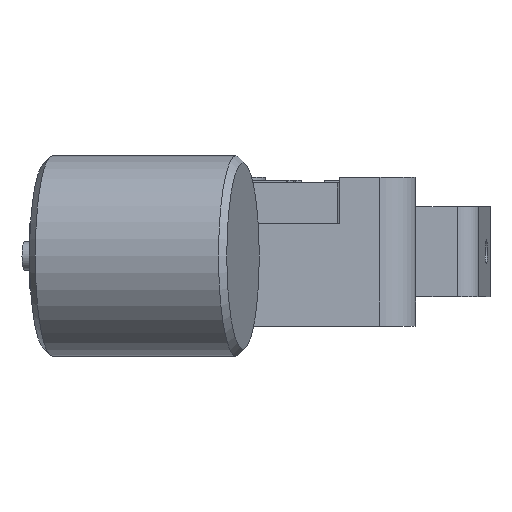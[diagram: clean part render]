
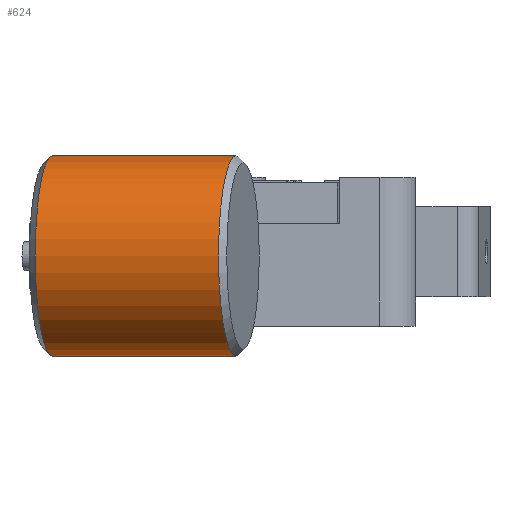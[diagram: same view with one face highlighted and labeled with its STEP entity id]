
A CAD part, left-side view. The second image highlights one B-rep face of the part: STEP entity #624.
In plain terms, the highlighted cylindrical face has radius 7 mm (diameter 14 mm), a full revolution.
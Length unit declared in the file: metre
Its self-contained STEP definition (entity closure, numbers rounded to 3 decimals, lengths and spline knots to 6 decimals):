
#585=CARTESIAN_POINT('',(-0.060081,0.005739,0.027813));
#586=DIRECTION('',(0.174,0.985,0.));
#587=DIRECTION('',(0.,0.,1.));
#588=AXIS2_PLACEMENT_3D('',#585,#586,#587);
#589=CIRCLE('',#588,0.007);
#590=CARTESIAN_POINT('',(-0.060081,0.005739,0.020813));
#591=VERTEX_POINT('',#590);
#592=EDGE_CURVE('',#591,#591,#589,.T.);
#605=CARTESIAN_POINT('',(-0.062426,-0.007556,0.027813));
#606=DIRECTION('',(-0.174,-0.985,0.));
#607=DIRECTION('',(0.,0.,-1.));
#608=AXIS2_PLACEMENT_3D('',#605,#606,#607);
#609=CYLINDRICAL_SURFACE('',#608,0.007);
#610=CARTESIAN_POINT('',(-0.062339,-0.007064,0.027813));
#611=DIRECTION('',(-0.174,-0.985,0.));
#612=DIRECTION('',(0.,0.,-1.));
#613=AXIS2_PLACEMENT_3D('',#610,#611,#612);
#614=CIRCLE('',#613,0.007);
#615=CARTESIAN_POINT('',(-0.062339,-0.007064,0.034813));
#616=VERTEX_POINT('',#615);
#617=EDGE_CURVE('',#616,#616,#614,.T.);
#618=ORIENTED_EDGE('',*,*,#617,.F.);
#619=EDGE_LOOP('',(#618));
#620=FACE_BOUND('',#619,.T.);
#621=ORIENTED_EDGE('',*,*,#592,.F.);
#622=EDGE_LOOP('',(#621));
#623=FACE_BOUND('',#622,.T.);
#624=ADVANCED_FACE('',(#620,#623),#609,.T.);
